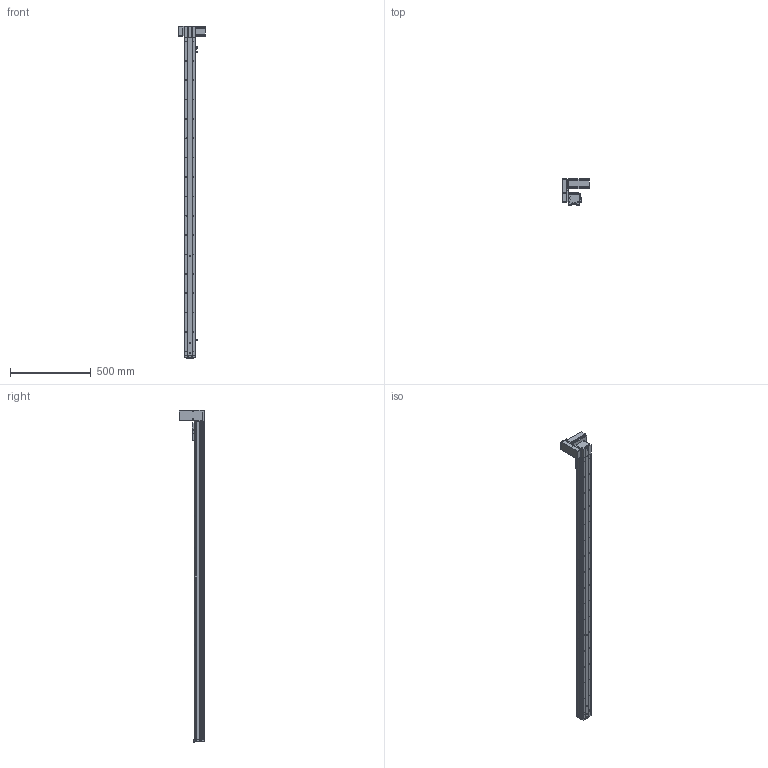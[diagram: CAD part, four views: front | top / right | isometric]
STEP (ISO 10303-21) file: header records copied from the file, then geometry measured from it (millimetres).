
FILE_DESCRIPTION (( 'STEP AP214' ), '1' );
FILE_NAME ('KSD68BS-S1800-MRU-CR.STEP', '2019-08-29T01:04:14', ( '微软用户' ), ( '微软中国' ), 'SwSTEP 2.0', 'SolidWorks 2014', '' );
FILE_SCHEMA (( 'AUTOMOTIVE_DESIGN' ));
Length unit declared in the file: millimetre
Products named in the file (14): 感应片68宽全封闭; U倰嫖萇EEㄜSX672; 台达ECMA－C20604AS伺服电机（400W); KSD68BS 1800行程底板全封闭; KSD68BS-S1800-MRU-CR; 68遵裔啣揤啣1; KSD68BS 1800行程盖板全封闭; 68宽单导轨全封闭丝杆传动安装板1防护罩; KSD68BS 1800行程侧板全封闭; 68宽单导轨全封闭同步带端板; 68单导轨全封闭同步带电机座右; 68单导轨全封闭同步带安装板; 悵誘欶奻狟殏; 68宽马达安装板连板上折同步带
Assembly tree (16 placements, depth 2):
  KSD68BS-S1800-MRU-CR
    KSD68BS 1800行程底板全封闭
    台达ECMA－C20604AS伺服电机（400W)
    U倰嫖萇EEㄜSX672  x3
    感应片68宽全封闭
    68宽马达安装板连板上折同步带
    悵誘欶奻狟殏
    68单导轨全封闭同步带安装板
    68单导轨全封闭同步带电机座右
    68宽单导轨全封闭同步带端板
    KSD68BS 1800行程侧板全封闭  x2
    68宽单导轨全封闭丝杆传动安装板1防护罩
    KSD68BS 1800行程盖板全封闭
    68遵裔啣揤啣1
Bounding box: 167.2 x 159.5 x 2058.1 mm (x, y, z)
Volume: 3617207.5 mm3; surface area: 1475788.9 mm2
Topology: 17 solids, 17 shells, 1557 faces, 4504 edges, 2861 vertices
Faces by surface type: cylinder 741, plane 624, cone 192
Entity records: 50754 total; most frequent: CARTESIAN_POINT 8978, DIRECTION 7557, ORIENTED_EDGE 7274, EDGE_CURVE 3637, AXIS2_PLACEMENT_3D 2734, VERTEX_POINT 2383, VECTOR 2089, LINE 2089
